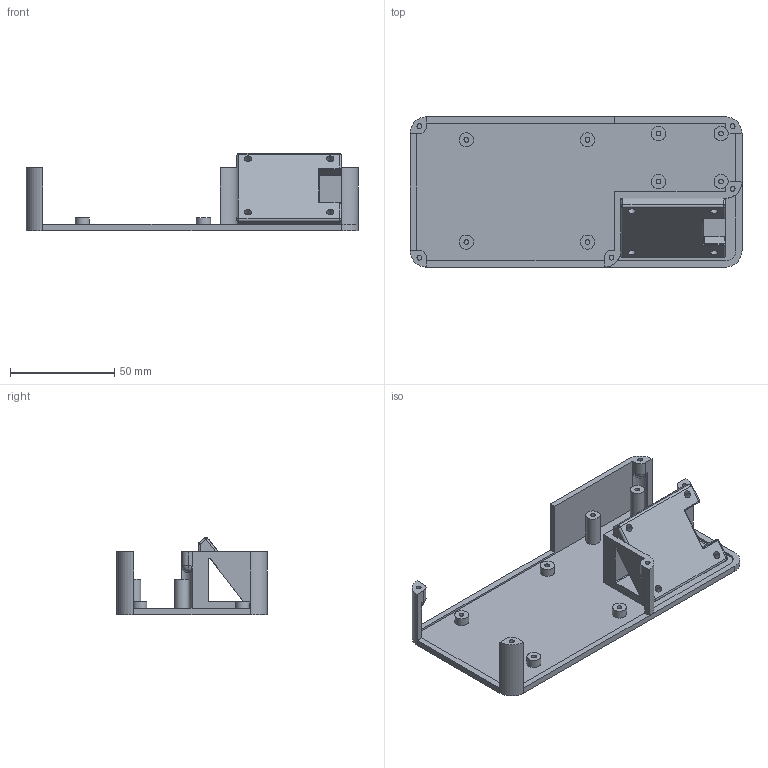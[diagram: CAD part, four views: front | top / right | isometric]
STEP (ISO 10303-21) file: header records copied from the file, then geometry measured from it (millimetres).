
FILE_DESCRIPTION(('HOOPS Exchange Step'),'2;1');
FILE_NAME('/private/var/mobile/Containers/Data/Application/BC5DB38F-8F79-4F4A-9C50-61E1223B387B/tmp/export/temp_export','2025-08-26T09:12:07+02:00',('mobile'),('Shapr3D Limited'),'HOOPS Exchange 2024.8','Shapr3D','Authorized');
FILE_SCHEMA( ('AP242_MANAGED_MODEL_BASED_3D_ENGINEERING_MIM_LF {1 0 10303 442 1 1 4}') );
Length unit declared in the file: millimetre
Products named in the file (1): Bottom
Bounding box: 159 x 72 x 36.89 mm (x, y, z)
Volume: 61631.3 mm3; surface area: 40780.8 mm2
Topology: 1 solids, 1 shells, 176 faces, 419 edges, 253 vertices
Faces by surface type: plane 84, cylinder 76, sphere 12, torus 4
Full cylindrical faces by diameter (mm): 2.3 x13, 3.4 x3, 3.5 x1, 6.8 x8
Entity records: 5355 total; most frequent: CARTESIAN_POINT 1186, DIRECTION 922, ORIENTED_EDGE 814, EDGE_CURVE 407, AXIS2_PLACEMENT_3D 348, VERTEX_POINT 253, VECTOR 226, LINE 226
